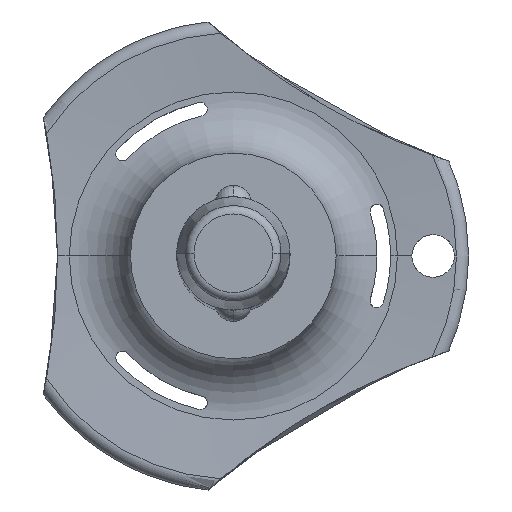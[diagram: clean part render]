
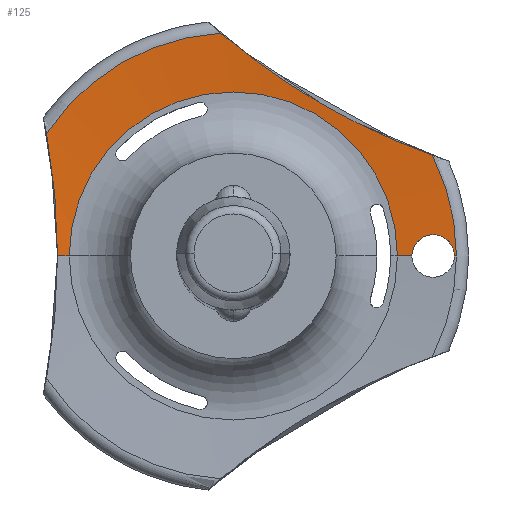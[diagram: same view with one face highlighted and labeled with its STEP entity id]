
A CAD part, top view. The second image highlights one B-rep face of the part: STEP entity #125.
In plain terms, the highlighted conical face has half-angle 85.408 degrees and reference radius 15.736 mm.
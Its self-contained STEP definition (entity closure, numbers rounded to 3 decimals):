
#10 = DIRECTION ( 'NONE',  ( -1., 0., 0. ) ) ;
#14 = CARTESIAN_POINT ( 'NONE',  ( 13.701, 1.452, -101.61 ) ) ;
#26 = EDGE_CURVE ( 'NONE', #243, #96, #2175, .T. ) ;
#41 = VECTOR ( 'NONE', #161, 1000. ) ;
#65 = CARTESIAN_POINT ( 'NONE',  ( 14.844, 1.312, -101.52 ) ) ;
#96 = VERTEX_POINT ( 'NONE', #1330 ) ;
#115 = VERTEX_POINT ( 'NONE', #1807 ) ;
#125 = ADVANCED_FACE ( 'NONE', ( #1992 ), #2057, .F. ) ;
#135 = CARTESIAN_POINT ( 'NONE',  ( 14.043, 7.1, -101.453 ) ) ;
#161 = DIRECTION ( 'NONE',  ( -0.997, 0., 0.08 ) ) ;
#195 = AXIS2_PLACEMENT_3D ( 'NONE', #229, #727, #1416 ) ;
#196 = CARTESIAN_POINT ( 'NONE',  ( 13.176, 1.193, -101.654 ) ) ;
#207 = CARTESIAN_POINT ( 'NONE',  ( 15.59, 0.198, -101.464 ) ) ;
#217 = CARTESIAN_POINT ( 'NONE',  ( 12.59, 0., -101.705 ) ) ;
#229 = CARTESIAN_POINT ( 'NONE',  ( 0., 0., -101.453 ) ) ;
#243 = VERTEX_POINT ( 'NONE', #1295 ) ;
#273 = AXIS2_PLACEMENT_3D ( 'NONE', #2000, #1464, #1646 ) ;
#315 = ORIENTED_EDGE ( 'NONE', *, *, #1032, .T. ) ;
#341 = DIRECTION ( 'NONE',  ( 0.997, 0., 0.08 ) ) ;
#395 = B_SPLINE_CURVE_WITH_KNOTS ( 'NONE', 3,
 ( #2194, #2032, #497, #2161, #653 ),
 .UNSPECIFIED., .F., .F.,
 ( 4, 1, 4 ),
 ( 0., 0.009, 0.017 ),
 .UNSPECIFIED. ) ;
#404 = EDGE_CURVE ( 'NONE', #115, #2142, #2158, .T. ) ;
#405 = CARTESIAN_POINT ( 'NONE',  ( 15.59, 0., -101.464 ) ) ;
#451 = EDGE_CURVE ( 'NONE', #1368, #1084, #1462, .T. ) ;
#497 = CARTESIAN_POINT ( 'NONE',  ( 6.074, 10.52, -101.827 ) ) ;
#500 = EDGE_CURVE ( 'NONE', #1270, #1712, #667, .T. ) ;
#513 = LINE ( 'NONE', #2094, #2129 ) ;
#522 = EDGE_CURVE ( 'NONE', #1762, #1368, #954, .T. ) ;
#547 = CARTESIAN_POINT ( 'NONE',  ( 15.438, 0.666, -101.475 ) ) ;
#560 = CARTESIAN_POINT ( 'NONE',  ( 12.891, 0.922, -101.679 ) ) ;
#573 = CARTESIAN_POINT ( 'NONE',  ( 13.339, 1.302, -101.64 ) ) ;
#607 = CARTESIAN_POINT ( 'NONE',  ( -12.4, 0., -101.721 ) ) ;
#626 = CARTESIAN_POINT ( 'NONE',  ( -12.653, 5.741, -101.614 ) ) ;
#653 = CARTESIAN_POINT ( 'NONE',  ( 14.043, 7.1, -101.453 ) ) ;
#667 = CIRCLE ( 'NONE', #273, 15.736 ) ;
#717 = CARTESIAN_POINT ( 'NONE',  ( 13.993, 1.5, -101.586 ) ) ;
#727 = DIRECTION ( 'NONE',  ( 0., 0., -1. ) ) ;
#754 = CARTESIAN_POINT ( 'NONE',  ( 12.78, 0.757, -101.688 ) ) ;
#859 = ORIENTED_EDGE ( 'NONE', *, *, #2058, .F. ) ;
#882 = ORIENTED_EDGE ( 'NONE', *, *, #1305, .F. ) ;
#888 = CARTESIAN_POINT ( 'NONE',  ( 12.59, 0., -101.705 ) ) ;
#889 = CARTESIAN_POINT ( 'NONE',  ( 15.219, 0.993, -101.492 ) ) ;
#936 = CARTESIAN_POINT ( 'NONE',  ( 15.011, 1.2, -101.507 ) ) ;
#954 = B_SPLINE_CURVE_WITH_KNOTS ( 'NONE', 3,
 ( #607, #1830, #626, #1316 ),
 .UNSPECIFIED., .F., .F.,
 ( 4, 4 ),
 ( 0.009, 0.017 ),
 .UNSPECIFIED. ) ;
#1017 = LINE ( 'NONE', #1705, #41 ) ;
#1032 = EDGE_CURVE ( 'NONE', #115, #1712, #1243, .T. ) ;
#1053 = CARTESIAN_POINT ( 'NONE',  ( 15.391, 0.753, -101.479 ) ) ;
#1082 = CARTESIAN_POINT ( 'NONE',  ( -12.4, 0., -101.721 ) ) ;
#1084 = VERTEX_POINT ( 'NONE', #1563 ) ;
#1132 = CARTESIAN_POINT ( 'NONE',  ( 0., 0., -101.453 ) ) ;
#1144 = DIRECTION ( 'NONE',  ( 1., 0., 0. ) ) ;
#1197 = DIRECTION ( 'NONE',  ( 0.997, 0., 0.08 ) ) ;
#1226 = CARTESIAN_POINT ( 'NONE',  ( 13.608, 1.424, -101.618 ) ) ;
#1239 = CARTESIAN_POINT ( 'NONE',  ( -13.171, 8.611, -101.453 ) ) ;
#1243 = LINE ( 'NONE', #1402, #1426 ) ;
#1251 = CARTESIAN_POINT ( 'NONE',  ( 12.59, 0.098, -101.705 ) ) ;
#1263 = CARTESIAN_POINT ( 'NONE',  ( 13.427, 1.349, -101.633 ) ) ;
#1270 = VERTEX_POINT ( 'NONE', #135 ) ;
#1295 = CARTESIAN_POINT ( 'NONE',  ( -11.57, 0., -101.787 ) ) ;
#1305 = EDGE_CURVE ( 'NONE', #1084, #1270, #395, .T. ) ;
#1310 = ORIENTED_EDGE ( 'NONE', *, *, #522, .F. ) ;
#1316 = CARTESIAN_POINT ( 'NONE',  ( -13.171, 8.611, -101.453 ) ) ;
#1330 = CARTESIAN_POINT ( 'NONE',  ( 11.57, 0., -101.787 ) ) ;
#1338 = ORIENTED_EDGE ( 'NONE', *, *, #2070, .T. ) ;
#1347 = AXIS2_PLACEMENT_3D ( 'NONE', #1892, #1553, #10 ) ;
#1348 = ORIENTED_EDGE ( 'NONE', *, *, #404, .F. ) ;
#1368 = VERTEX_POINT ( 'NONE', #1239 ) ;
#1402 = CARTESIAN_POINT ( 'NONE',  ( 15.736, 0., -101.453 ) ) ;
#1406 = CARTESIAN_POINT ( 'NONE',  ( 13.893, 1.49, -101.594 ) ) ;
#1416 = DIRECTION ( 'NONE',  ( -1., 0., 0. ) ) ;
#1426 = VECTOR ( 'NONE', #1197, 1000. ) ;
#1441 = CARTESIAN_POINT ( 'NONE',  ( 12.667, 0.484, -101.698 ) ) ;
#1462 = CIRCLE ( 'NONE', #195, 15.736 ) ;
#1464 = DIRECTION ( 'NONE',  ( 0., 0., -1. ) ) ;
#1482 = ORIENTED_EDGE ( 'NONE', *, *, #451, .F. ) ;
#1553 = DIRECTION ( 'NONE',  ( 0., 0., -1. ) ) ;
#1563 = CARTESIAN_POINT ( 'NONE',  ( -0.872, 15.712, -101.453 ) ) ;
#1571 = CARTESIAN_POINT ( 'NONE',  ( 14.285, 1.5, -101.563 ) ) ;
#1646 = DIRECTION ( 'NONE',  ( -1., 0., 0. ) ) ;
#1705 = CARTESIAN_POINT ( 'NONE',  ( -15.736, 0., -101.453 ) ) ;
#1712 = VERTEX_POINT ( 'NONE', #1966 ) ;
#1753 = CARTESIAN_POINT ( 'NONE',  ( 12.6, 0.198, -101.704 ) ) ;
#1762 = VERTEX_POINT ( 'NONE', #1082 ) ;
#1765 = CARTESIAN_POINT ( 'NONE',  ( 15.282, 0.916, -101.487 ) ) ;
#1777 = CARTESIAN_POINT ( 'NONE',  ( 15.551, 0.393, -101.467 ) ) ;
#1780 = ORIENTED_EDGE ( 'NONE', *, *, #500, .F. ) ;
#1807 = CARTESIAN_POINT ( 'NONE',  ( 15.59, 0., -101.464 ) ) ;
#1830 = CARTESIAN_POINT ( 'NONE',  ( -12.4, 2.87, -101.721 ) ) ;
#1892 = CARTESIAN_POINT ( 'NONE',  ( 0., 0., -101.787 ) ) ;
#1966 = CARTESIAN_POINT ( 'NONE',  ( 15.736, 0., -101.453 ) ) ;
#1992 = FACE_OUTER_BOUND ( 'NONE', #2092, .T. ) ;
#2000 = CARTESIAN_POINT ( 'NONE',  ( 0., 0., -101.453 ) ) ;
#2025 = AXIS2_PLACEMENT_3D ( 'NONE', #1132, #2152, #1144 ) ;
#2032 = CARTESIAN_POINT ( 'NONE',  ( 1.355, 13.828, -101.614 ) ) ;
#2057 = CONICAL_SURFACE ( 'NONE', #2025, 15.736, 1.491 ) ;
#2058 = EDGE_CURVE ( 'NONE', #243, #1762, #1017, .T. ) ;
#2070 = EDGE_CURVE ( 'NONE', #96, #2142, #513, .T. ) ;
#2083 = CARTESIAN_POINT ( 'NONE',  ( 13.101, 1.132, -101.66 ) ) ;
#2092 = EDGE_LOOP ( 'NONE', ( #859, #2170, #1338, #1348, #315, #1780, #882, #1482, #1310 ) ) ;
#2094 = CARTESIAN_POINT ( 'NONE',  ( 15.736, 0., -101.453 ) ) ;
#2110 = CARTESIAN_POINT ( 'NONE',  ( 14.483, 1.461, -101.547 ) ) ;
#2122 = CARTESIAN_POINT ( 'NONE',  ( 12.638, 0.39, -101.701 ) ) ;
#2129 = VECTOR ( 'NONE', #341, 1000. ) ;
#2142 = VERTEX_POINT ( 'NONE', #888 ) ;
#2152 = DIRECTION ( 'NONE',  ( 0., 0., 1. ) ) ;
#2158 = B_SPLINE_CURVE_WITH_KNOTS ( 'NONE', 3,
 ( #405, #207, #1777, #547, #1053, #1765, #889, #936, #65, #2110, #1571, #717, #1406, #14, #1226, #1263, #573, #196, #2083, #560, #754, #1441, #2122, #1753, #1251, #217 ),
 .UNSPECIFIED., .F., .F.,
 ( 4, 2, 2, 2, 2, 2, 2, 2, 2, 2, 2, 2, 4 ),
 ( 0.004, 0.004, 0.004, 0.005, 0.005, 0.006, 0.006, 0.006, 0.007, 0.007, 0.008, 0.008, 0.008 ),
 .UNSPECIFIED. ) ;
#2161 = CARTESIAN_POINT ( 'NONE',  ( 11.298, 8.087, -101.614 ) ) ;
#2170 = ORIENTED_EDGE ( 'NONE', *, *, #26, .T. ) ;
#2175 = CIRCLE ( 'NONE', #1347, 11.57 ) ;
#2194 = CARTESIAN_POINT ( 'NONE',  ( -0.872, 15.712, -101.453 ) ) ;
